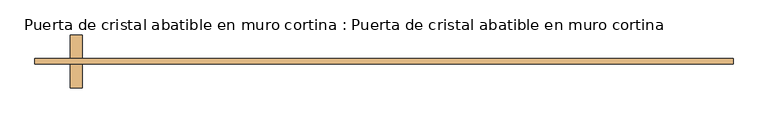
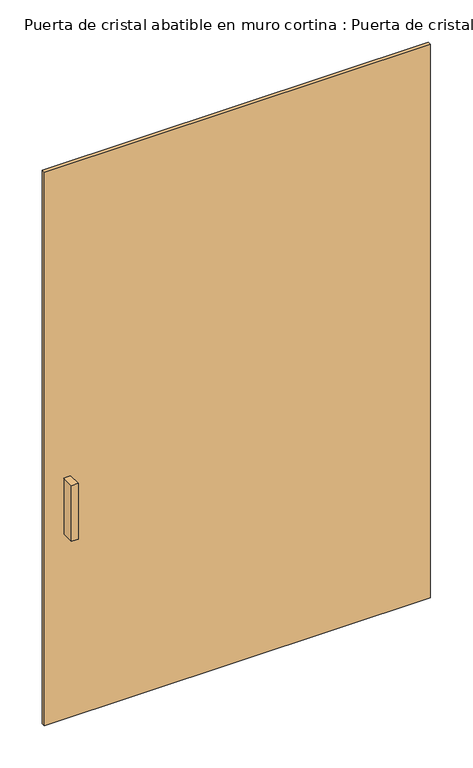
"""IFC4 building model written with IfcOpenShell, lengths in millimetres: door geometry, Puerta de cristal abatible en muro cortina : Puerta de cristal abatible en muro cortina."""

import ifcopenshell
import ifcopenshell.guid

model = None  # the IFC model being written
_history = None  # IfcOwnerHistory: only IFC2X3 demands one
_inside = {}  # id of a spatial element -> (the spatial element, [elements in it])
_under = {}  # id of a project, library or spatial element -> (it, [spatial elements below it])
_declared = {}  # id of a project -> (the project, [libraries it declares])
_typed = {}  # id of a type object -> (the type object, [elements of that type])
_made_of = {}  # id of a material, layer set ... -> (it, [elements and type objects made of it])


def new_model(schema):
    """Start an empty IFC model of exactly this schema.

    Asked for "IFC4X3", IfcOpenShell would pick the latest addendum, in which some entities
    have other attributes; the version numbers below select the first issue.
    IFC2X3 requires an IfcOwnerHistory on every rooted entity: one is made here for all.
    """
    global model, _history
    if schema == "IFC4X3":
        model = ifcopenshell.file(schema_version=(4, 3, 0, 0))
    else:
        model = ifcopenshell.file(schema=schema)
    _inside.clear()
    _under.clear()
    _declared.clear()
    _typed.clear()
    _made_of.clear()
    _history = None
    if model.schema == "IFC2X3":
        org = make("IfcOrganization", Name="unknown")
        user = make(
            "IfcPersonAndOrganization",
            ThePerson=make("IfcPerson", FamilyName="unknown"),
            TheOrganization=org,
        )
        app = make(
            "IfcApplication",
            ApplicationDeveloper=org,
            Version="unknown",
            ApplicationFullName="unknown",
            ApplicationIdentifier="unknown",
        )
        _history = make(
            "IfcOwnerHistory",
            OwningUser=user,
            OwningApplication=app,
            ChangeAction="ADDED",
            CreationDate=0,
        )
    return model


def make(cls, **values):
    """One entity of the class cls with the attributes given. An attribute that is None is left unset."""
    return model.create_entity(
        cls, **{name: value for name, value in values.items() if value is not None}
    )


def rooted(cls, **values):
    """An entity with a GlobalId (a new one), such as an element, a storey or a relation."""
    return make(cls, GlobalId=ifcopenshell.guid.new(), OwnerHistory=_history, **values)


def si_unit(unit_type, name, prefix=None):
    """IfcSIUnit, for example si_unit("LENGTHUNIT", "METRE", prefix="MILLI")."""
    return make("IfcSIUnit", UnitType=unit_type, Prefix=prefix, Name=name)


def assignment(units):
    """IfcUnitAssignment: the units of a project."""
    return None if units is None else make("IfcUnitAssignment", Units=units)


def point(xyz):
    """IfcCartesianPoint."""
    return None if xyz is None else make("IfcCartesianPoint", Coordinates=xyz)


def direction(xyz):
    """IfcDirection."""
    return None if xyz is None else make("IfcDirection", DirectionRatios=xyz)


def frame(location, z_axis=None, x_axis=None):
    """IfcAxis2Placement3D, a coordinate frame: its origin and axes. An axis left out is left unset."""
    return make(
        "IfcAxis2Placement3D",
        Location=point(location),
        Axis=direction(z_axis),
        RefDirection=direction(x_axis),
    )


def origin():
    """The frame at (0, 0, 0) with its axes left unset."""
    return frame((0.0, 0.0, 0.0))


def origin_with_axes():
    """The frame at (0, 0, 0) with the z axis (0, 0, 1) and the x axis (1, 0, 0) written out."""
    return frame((0.0, 0.0, 0.0), z_axis=(0.0, 0.0, 1.0), x_axis=(1.0, 0.0, 0.0))


def place(relative_to, where):
    """IfcLocalPlacement: puts the frame where relative to a parent placement (None: the world)."""
    return make(
        "IfcLocalPlacement", PlacementRelTo=relative_to, RelativePlacement=where
    )


def context(
    kind, dimensions, precision=None, world=None, true_north=None, identifier=None
):
    """IfcGeometricRepresentationContext, for example the 3D "Model" context."""
    return make(
        "IfcGeometricRepresentationContext",
        ContextIdentifier=identifier,
        ContextType=kind,
        CoordinateSpaceDimension=dimensions,
        Precision=precision,
        WorldCoordinateSystem=world,
        TrueNorth=true_north,
    )


def project(units=None, contexts=None):
    """IfcProject with its units and contexts."""
    return rooted(
        "IfcProject",
        Name="project",
        RepresentationContexts=contexts,
        UnitsInContext=assignment(units),
    )


def spatial(cls, under=None, at=None, **own):
    """A site, building, storey or space (cls), placed at a placement, below another one or the project."""
    s = rooted(cls, ObjectPlacement=at, **own)
    if under is not None:
        _under.setdefault(under.id(), (under, []))[1].append(s)
    return s


def polyline(points):
    """IfcPolyline through the points."""
    return make("IfcPolyline", Points=[point(p) for p in points])


def outline(outer, holes=None, kind="AREA"):
    """IfcArbitraryClosedProfileDef: a profile drawn as a closed curve; with holes, ...WithVoids."""
    if holes is None:
        return make("IfcArbitraryClosedProfileDef", ProfileType=kind, OuterCurve=outer)
    return make(
        "IfcArbitraryProfileDefWithVoids",
        ProfileType=kind,
        OuterCurve=outer,
        InnerCurves=holes,
    )


def extrude(swept, where, along, depth):
    """IfcExtrudedAreaSolid: the profile swept, set in the frame where, extruded along a direction by depth."""
    return make(
        "IfcExtrudedAreaSolid",
        SweptArea=swept,
        Position=where,
        ExtrudedDirection=direction(along),
        Depth=depth,
    )


def shape(context_of_items, identifier, shape_type, items):
    """IfcShapeRepresentation: the items that make up one representation, for example the "Body"."""
    return make(
        "IfcShapeRepresentation",
        ContextOfItems=context_of_items,
        RepresentationIdentifier=identifier,
        RepresentationType=shape_type,
        Items=items,
    )


def source(mapping_origin, context_of_items, identifier, shape_type, items):
    """IfcRepresentationMap: a shape defined once, which mapped items show again and again."""
    return make(
        "IfcRepresentationMap",
        MappingOrigin=mapping_origin,
        MappedRepresentation=shape(context_of_items, identifier, shape_type, items),
    )


def transform(
    local_origin,
    x_axis=None,
    y_axis=None,
    z_axis=None,
    scale=None,
    scale2=None,
    scale3=None,
    uniform=True,
):
    """IfcCartesianTransformationOperator3D, or its non-uniform kind. x_axis, y_axis, z_axis: its Axis1, 2, 3."""
    if uniform:
        return make(
            "IfcCartesianTransformationOperator3D",
            Axis1=direction(x_axis),
            Axis2=direction(y_axis),
            LocalOrigin=point(local_origin),
            Scale=scale,
            Axis3=direction(z_axis),
        )
    return make(
        "IfcCartesianTransformationOperator3DnonUniform",
        Axis1=direction(x_axis),
        Axis2=direction(y_axis),
        LocalOrigin=point(local_origin),
        Scale=scale,
        Axis3=direction(z_axis),
        Scale2=scale2,
        Scale3=scale3,
    )


def mapped(mapping_source, mapping_target):
    """IfcMappedItem: shows the shape of a source again, moved by a transform."""
    return make(
        "IfcMappedItem", MappingSource=mapping_source, MappingTarget=mapping_target
    )


def made_of(thing, what):
    """Note that an element or type object is made of a material, layer set ...; save() writes the relation."""
    if what is not None:
        _made_of.setdefault(what.id(), (what, []))[1].append(thing)
    return thing


def element(
    cls,
    number,
    at=None,
    inside=None,
    cuts=None,
    type_object=None,
    material=None,
    context=None,
    identifier="Body",
    shape_type=None,
    held_by="IfcProductDefinitionShape",
    body=None,
    shapes=None,
    **own,
):
    """One element of the class cls, such as IfcWall. Its Tag is "e" and its number.

    at: its placement. inside: the storey or other place that contains it. cuts: it is an
    opening in that element (IfcRelVoidsElement). A single representation is given by context,
    identifier, shape_type and body (its items); several are given by shapes. held_by: the class
    of the entity that holds the representations. save() writes the other relations.
    """
    e = rooted(cls, Tag="e%d" % number, ObjectPlacement=at, **own)
    if body is not None:
        shapes = [shape(context, identifier, shape_type, body)]
    if shapes is not None:
        e.Representation = make(held_by, Representations=shapes)
    if inside is not None:
        _inside.setdefault(inside.id(), (inside, []))[1].append(e)
    if cuts is not None:
        rooted(
            "IfcRelVoidsElement", RelatingBuildingElement=cuts, RelatedOpeningElement=e
        )
    if type_object is not None:
        _typed.setdefault(type_object.id(), (type_object, []))[1].append(e)
    return made_of(e, material)


def aggregate(whole, parts):
    """IfcRelAggregates: a whole, such as a stair, and the parts it consists of."""
    return rooted("IfcRelAggregates", RelatingObject=whole, RelatedObjects=parts)


def save(model, path):
    """Write the relations noted so far, then the file.

    IfcRelAggregates (storeys below a building ...), IfcRelContainedInSpatialStructure (elements
    in a storey), IfcRelDefinesByType, IfcRelAssociatesMaterial and IfcRelDeclares: one each for
    every whole, place, type object, material and project.
    """
    for whole, parts in _under.values():
        aggregate(whole, parts)
    for where, things in _inside.values():
        rooted(
            "IfcRelContainedInSpatialStructure",
            RelatedElements=things,
            RelatingStructure=where,
        )
    for kind, things in _typed.values():
        rooted("IfcRelDefinesByType", RelatedObjects=things, RelatingType=kind)
    for what, things in _made_of.values():
        rooted("IfcRelAssociatesMaterial", RelatedObjects=things, RelatingMaterial=what)
    for by, libraries in _declared.values():
        rooted("IfcRelDeclares", RelatingContext=by, RelatedDefinitions=libraries)
    model.write(path)


def puerta_de_cristal_abatible_en_muro_cortina_puerta_de_cristal_2f4fb634(model_context):
    return source(origin(), model_context, "Body", "SweptSolid", [
        extrude(outline(polyline([(-648.4, -12.5), (-673.8, -12.5), (-673.8, 38.3), (-648.4, 38.3), (-648.4, -12.5)])), frame((0.0, 0.0, 762.0), z_axis=(0.0, 0.0, 1.0), x_axis=(1.0, 0.0, 0.0)), (0.0, 0.0, 1.0), 228.6),
        extrude(outline(polyline([(-673.8, 101.8), (-648.4, 101.8), (-648.4, 51.0), (-673.8, 51.0), (-673.8, 101.8)])), frame((0.0, 0.0, 762.0), z_axis=(0.0, 0.0, 1.0), x_axis=(1.0, 0.0, 0.0)), (0.0, 0.0, 1.0), 228.6),
        extrude(outline(polyline([(750.0, 51.0), (750.0, 38.3), (-750.0, 38.3), (-750.0, 51.0), (750.0, 51.0)])), origin_with_axes(), (0.0, 0.0, 1.0), 2275.0),
    ])


if __name__ == "__main__":
    model = new_model("IFC4")
    model_context = context("Model", 3, world=origin())
    ifc_project = project(units=[si_unit("LENGTHUNIT", "METRE", prefix="MILLI")], contexts=[model_context])
    site = spatial("IfcSite", under=ifc_project)
    building = spatial("IfcBuilding", under=site)
    placement = place(None, origin())
    puerta_de_cristal_abatible_en_muro_cortina_puerta_de_cristal_shape = puerta_de_cristal_abatible_en_muro_cortina_puerta_de_cristal_2f4fb634(model_context)
    element("IfcDoor", 1, ObjectType="Puerta de cristal abatible en muro cortina : Puerta de cristal abatible en muro cortina", at=placement, inside=building, context=model_context, shape_type="MappedRepresentation", body=[
        mapped(puerta_de_cristal_abatible_en_muro_cortina_puerta_de_cristal_shape, transform((0.0, 0.0, 0.0), x_axis=(1.0, 0.0, 0.0), y_axis=(0.0, 1.0, 0.0), z_axis=(0.0, 0.0, 1.0))),
    ])
    save(model, "model.ifc")
